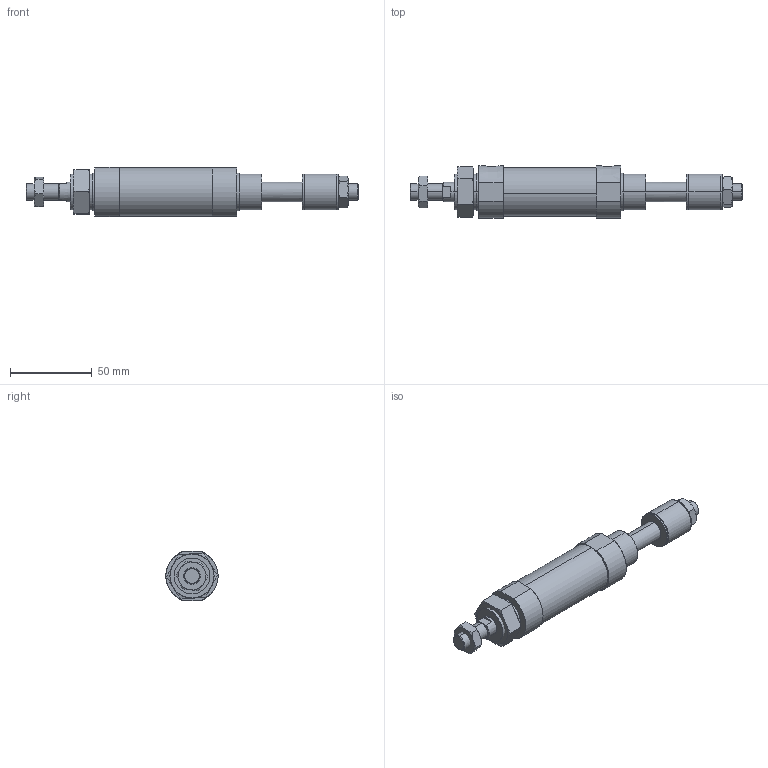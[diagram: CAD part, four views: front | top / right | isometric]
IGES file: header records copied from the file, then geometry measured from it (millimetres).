
Start section: SolidWorks IGES file using analytic representation for surfaces
Global section: file name: C:\Users\Toshiba\Desktop\JGA7-25-25-N.IGS; native system: SolidWorks 2014; preprocessor: SolidWorks 2014; author: Toshiba; date: 160420.095605; units: millimetre
Bounding box: 203 x 32 x 30 mm (x, y, z)
Surface area: 25893.6 mm2 (no closed solid volume)
Topology: 0 solids, 0 shells, 149 faces, 2684 edges, 2680 vertices
Faces by surface type: bspline 95, revolution 54
